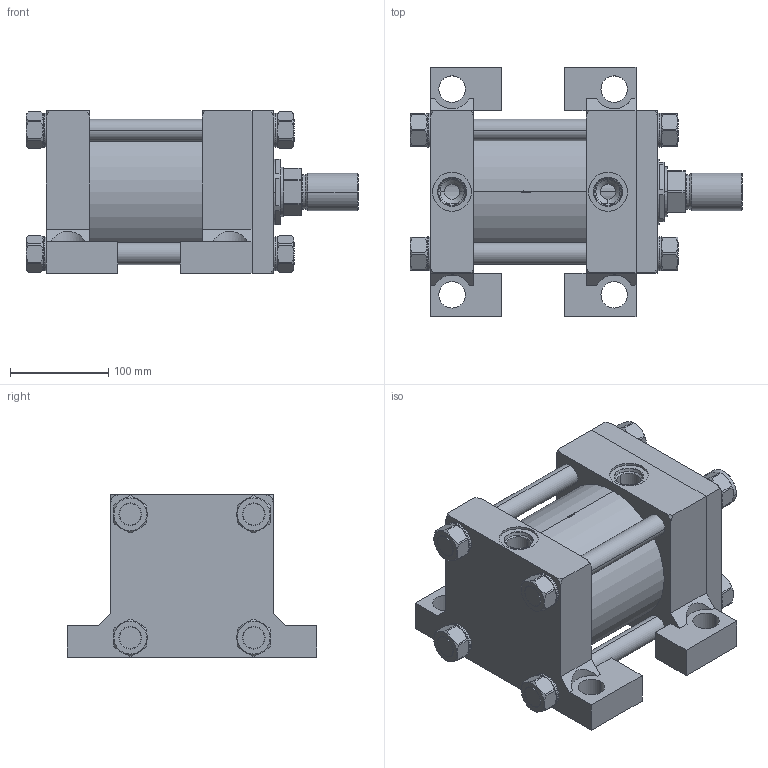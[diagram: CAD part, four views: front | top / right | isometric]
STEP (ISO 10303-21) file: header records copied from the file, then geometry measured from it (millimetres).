
FILE_DESCRIPTION (( 'STEP AP214' ), '1' );
FILE_NAME ('5.00C2HHNAT114A2.000.step', '2026-03-26T21:12:51', ( '' ), ( '' ), 'SwSTEP 2.0', 'SolidWorks 2023', '' );
FILE_SCHEMA (( 'AUTOMOTIVE_DESIGN' ));
Length unit declared in the file: inch
Products named in the file (1): 5.00C2HHNAT114A2.000
Bounding box: 338.14 x 254 x 165.1 mm (x, y, z)
Volume: 5230448.1 mm3; surface area: 698987.3 mm2
Topology: 44 solids, 44 shells, 1217 faces, 3139 edges, 2018 vertices
Faces by surface type: plane 795, cylinder 221, cone 163, bspline 30, torus 8
Entity records: 55232 total; most frequent: CARTESIAN_POINT 11049, ORIENTED_EDGE 6278, DIRECTION 5157, EDGE_CURVE 3139, VERTEX_POINT 2018, AXIS2_PLACEMENT_3D 1750, LINE 1657, VECTOR 1657
